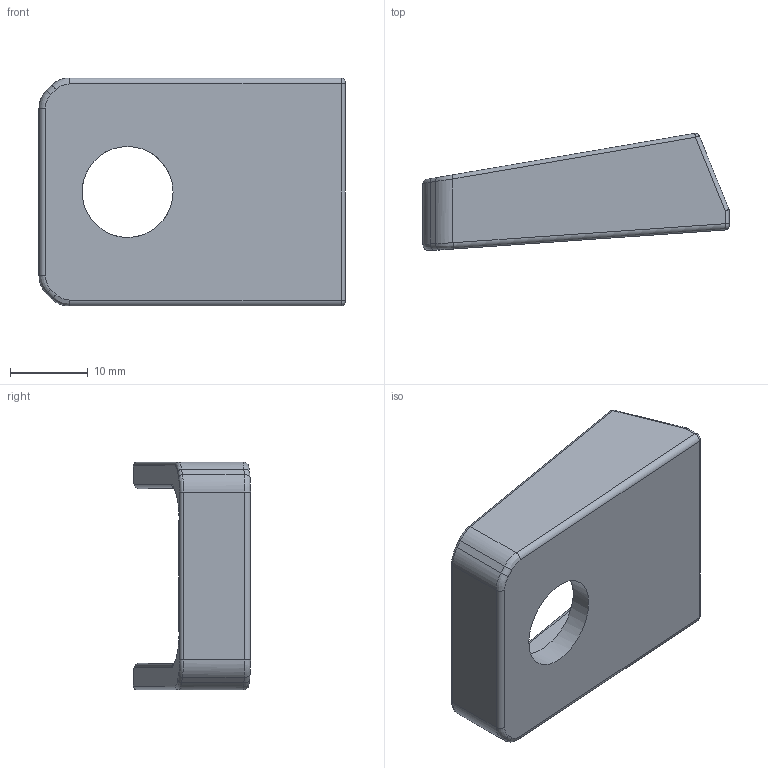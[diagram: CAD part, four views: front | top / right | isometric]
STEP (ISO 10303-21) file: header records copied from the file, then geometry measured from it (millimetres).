
FILE_DESCRIPTION(/* description */ (''),/* implementation_level */ '2;1');
FILE_NAME(/* name */ 'E:\MenMag v2.0\Menendez Magazine Pack v2.0\STEP\Baseplate - G26-G19 Angle v2.0.stp',/* time_stamp */ '2021-03-22T14:30:25-05:00',/* author */ ('johne'),/* organization */ (''),/* preprocessor_version */ 'ST-DEVELOPER v18',/* originating_system */ 'Autodesk Inventor 2020',/* authorisation */ '');
FILE_SCHEMA (('AUTOMOTIVE_DESIGN { 1 0 10303 214 3 1 1 }'));
Length unit declared in the file: inch
Products named in the file (1): Menendez Mag Baseplate v2.0
Bounding box: 39.32 x 15.04 x 29.29 mm (x, y, z)
Volume: 4548.2 mm3; surface area: 4179.3 mm2
Topology: 1 solids, 1 shells, 97 faces, 231 edges, 136 vertices
Faces by surface type: cylinder 49, bspline 20, plane 20, torus 6, sphere 2
Full cylindrical faces by diameter (mm): 11.684 x1
Entity records: 3322 total; most frequent: CARTESIAN_POINT 1041, DIRECTION 487, ORIENTED_EDGE 462, EDGE_CURVE 231, AXIS2_PLACEMENT_3D 192, VERTEX_POINT 136, LINE 103, VECTOR 103
